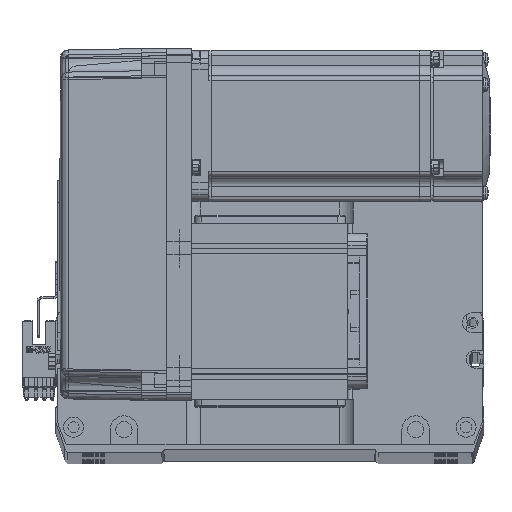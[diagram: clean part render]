
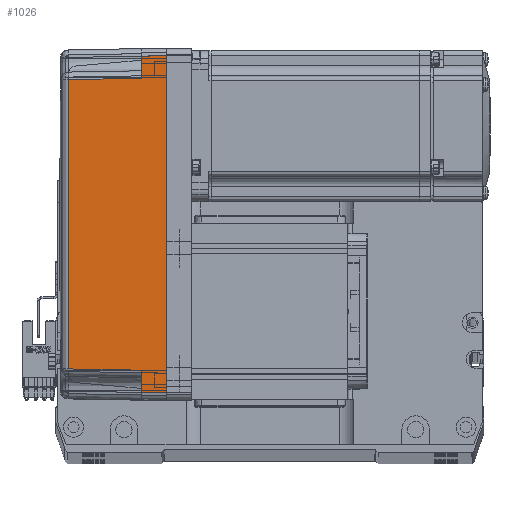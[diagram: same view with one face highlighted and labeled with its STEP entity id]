
A CAD part, top view. The second image highlights one B-rep face of the part: STEP entity #1026.
In plain terms, the highlighted planar face has unit normal (-0.018, 0, 1) as drawn and (0, 1, 0.017) by its records, which use the part's own axes.
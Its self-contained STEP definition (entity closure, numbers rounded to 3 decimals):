
#1026 = ADVANCED_FACE ( 'NONE', ( #60079 ), #67742, .T. ) ;
#1911 = EDGE_CURVE ( 'NONE', #65831, #5444, #24343, .T. ) ;
#2111 = VECTOR ( 'NONE', #63949, 1000. ) ;
#5444 = VERTEX_POINT ( 'NONE', #23968 ) ;
#6235 = ORIENTED_EDGE ( 'NONE', *, *, #27849, .T. ) ;
#7054 = CARTESIAN_POINT ( 'NONE',  ( 70., 35.825, 10. ) ) ;
#7307 = VERTEX_POINT ( 'NONE', #68918 ) ;
#7314 = LINE ( 'NONE', #12617, #51724 ) ;
#8822 = CARTESIAN_POINT ( 'NONE',  ( 57.495, 35.32, 38.985 ) ) ;
#8895 = CARTESIAN_POINT ( 'NONE',  ( 70., 36., 0. ) ) ;
#8961 = VERTEX_POINT ( 'NONE', #34233 ) ;
#10164 = DIRECTION ( 'NONE',  ( 1., 0., 0. ) ) ;
#10393 = VECTOR ( 'NONE', #64721, 1000. ) ;
#10449 = ORIENTED_EDGE ( 'NONE', *, *, #30424, .T. ) ;
#11054 = DIRECTION ( 'NONE',  ( 0.017, 0.017, -1. ) ) ;
#12049 = LINE ( 'NONE', #60947, #10393 ) ;
#12278 = CARTESIAN_POINT ( 'NONE',  ( -66.826, 35.825, 10. ) ) ;
#12617 = CARTESIAN_POINT ( 'NONE',  ( -58., 35.825, 10. ) ) ;
#12638 = EDGE_CURVE ( 'NONE', #7307, #8961, #14744, .T. ) ;
#13832 = EDGE_CURVE ( 'NONE', #5444, #50519, #56892, .T. ) ;
#14499 = CARTESIAN_POINT ( 'NONE',  ( -67., 36., 0. ) ) ;
#14744 = LINE ( 'NONE', #63223, #29631 ) ;
#17228 = CARTESIAN_POINT ( 'NONE',  ( 58., 35.825, 10. ) ) ;
#19847 = VERTEX_POINT ( 'NONE', #65370 ) ;
#23968 = CARTESIAN_POINT ( 'NONE',  ( 57.495, 35.32, 38.985 ) ) ;
#24022 = VERTEX_POINT ( 'NONE', #12278 ) ;
#24343 = B_SPLINE_CURVE_WITH_KNOTS ( 'NONE', 3,
 ( #24527, #51166, #24771, #8822 ),
 .UNSPECIFIED., .F., .F.,
 ( 4, 4 ),
 ( 0., 1. ),
 .UNSPECIFIED. ) ;
#24527 = CARTESIAN_POINT ( 'NONE',  ( -57.495, 35.32, 38.985 ) ) ;
#24771 = CARTESIAN_POINT ( 'NONE',  ( 19.165, 35.316, 39.181 ) ) ;
#24995 = CARTESIAN_POINT ( 'NONE',  ( -57.495, 35.32, 38.985 ) ) ;
#27849 = EDGE_CURVE ( 'NONE', #19847, #65831, #7314, .T. ) ;
#29201 = VECTOR ( 'NONE', #55242, 1000. ) ;
#29631 = VECTOR ( 'NONE', #10164, 1000. ) ;
#30424 = EDGE_CURVE ( 'NONE', #50519, #36990, #12049, .T. ) ;
#31665 = LINE ( 'NONE', #7054, #29201 ) ;
#32651 = VECTOR ( 'NONE', #11054, 1000. ) ;
#34186 = EDGE_CURVE ( 'NONE', #24022, #19847, #31665, .T. ) ;
#34233 = CARTESIAN_POINT ( 'NONE',  ( 67., 36., 0. ) ) ;
#34292 = VECTOR ( 'NONE', #68420, 1000. ) ;
#35813 = DIRECTION ( 'NONE',  ( 0., -0.017, 1. ) ) ;
#36683 = EDGE_LOOP ( 'NONE', ( #46357, #49313, #6235, #43194, #42015, #10449, #49089, #67018 ) ) ;
#36990 = VERTEX_POINT ( 'NONE', #44752 ) ;
#41022 = LINE ( 'NONE', #14499, #34292 ) ;
#42015 = ORIENTED_EDGE ( 'NONE', *, *, #13832, .T. ) ;
#43194 = ORIENTED_EDGE ( 'NONE', *, *, #1911, .T. ) ;
#44752 = CARTESIAN_POINT ( 'NONE',  ( 66.826, 35.825, 10. ) ) ;
#46357 = ORIENTED_EDGE ( 'NONE', *, *, #66970, .T. ) ;
#46705 = CARTESIAN_POINT ( 'NONE',  ( 67.001, 36.001, -0.052 ) ) ;
#49089 = ORIENTED_EDGE ( 'NONE', *, *, #55850, .F. ) ;
#49313 = ORIENTED_EDGE ( 'NONE', *, *, #34186, .T. ) ;
#50519 = VERTEX_POINT ( 'NONE', #17228 ) ;
#51166 = CARTESIAN_POINT ( 'NONE',  ( -19.165, 35.316, 39.181 ) ) ;
#51724 = VECTOR ( 'NONE', #60732, 1000. ) ;
#52387 = DIRECTION ( 'NONE',  ( 0., 1., 0.017 ) ) ;
#55242 = DIRECTION ( 'NONE',  ( 1., 0., 0. ) ) ;
#55850 = EDGE_CURVE ( 'NONE', #8961, #36990, #67422, .T. ) ;
#56892 = LINE ( 'NONE', #59426, #32651 ) ;
#59426 = CARTESIAN_POINT ( 'NONE',  ( 57.495, 35.32, 38.985 ) ) ;
#60079 = FACE_OUTER_BOUND ( 'NONE', #36683, .T. ) ;
#60732 = DIRECTION ( 'NONE',  ( 0.017, -0.017, 1. ) ) ;
#60947 = CARTESIAN_POINT ( 'NONE',  ( 70., 35.825, 10. ) ) ;
#63223 = CARTESIAN_POINT ( 'NONE',  ( 0., 36., 0. ) ) ;
#63949 = DIRECTION ( 'NONE',  ( -0.017, -0.017, 1. ) ) ;
#64721 = DIRECTION ( 'NONE',  ( 1., 0., 0. ) ) ;
#65370 = CARTESIAN_POINT ( 'NONE',  ( -58., 35.825, 10. ) ) ;
#65831 = VERTEX_POINT ( 'NONE', #24995 ) ;
#66499 = AXIS2_PLACEMENT_3D ( 'NONE', #8895, #52387, #35813 ) ;
#66970 = EDGE_CURVE ( 'NONE', #7307, #24022, #41022, .T. ) ;
#67018 = ORIENTED_EDGE ( 'NONE', *, *, #12638, .F. ) ;
#67422 = LINE ( 'NONE', #46705, #2111 ) ;
#67742 = PLANE ( 'NONE',  #66499 ) ;
#68420 = DIRECTION ( 'NONE',  ( 0.017, -0.017, 1. ) ) ;
#68918 = CARTESIAN_POINT ( 'NONE',  ( -67., 36., 0. ) ) ;
